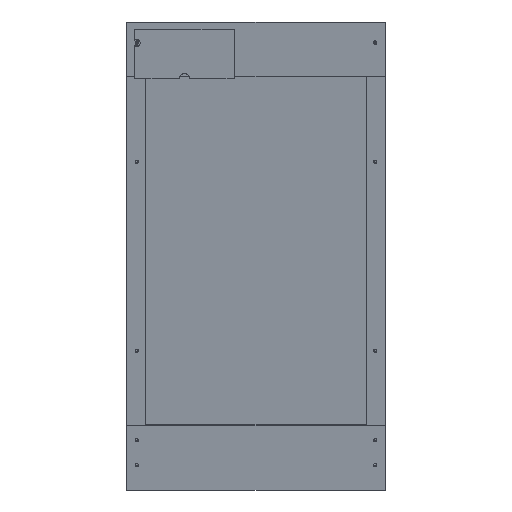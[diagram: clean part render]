
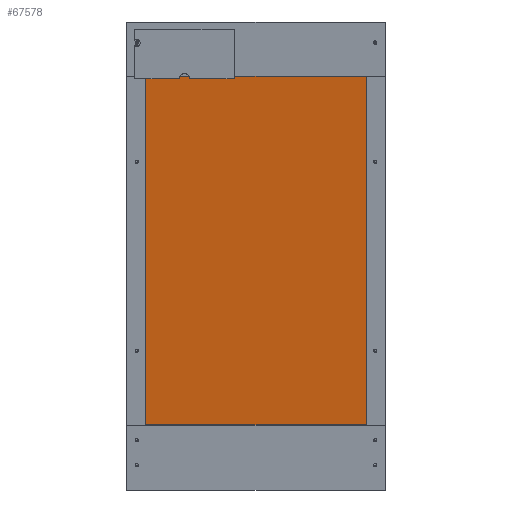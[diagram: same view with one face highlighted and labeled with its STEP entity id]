
A CAD part, top view. The second image highlights one B-rep face of the part: STEP entity #67578.
In plain terms, the highlighted planar face has unit normal (0, -0.174, 0.985).
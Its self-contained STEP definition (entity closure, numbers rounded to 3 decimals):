
#67409 = PLANE('',#67410);
#67410 = AXIS2_PLACEMENT_3D('',#67411,#67412,#67413);
#67411 = CARTESIAN_POINT('',(18.1,64.,86.285));
#67412 = DIRECTION('',(-0.,1.,0.));
#67413 = DIRECTION('',(0.,0.,-1.));
#67437 = PLANE('',#67438);
#67438 = AXIS2_PLACEMENT_3D('',#67439,#67440,#67441);
#67439 = CARTESIAN_POINT('',(241.9,240.675,111.437));
#67440 = DIRECTION('',(1.,0.,0.));
#67441 = DIRECTION('',(-0.,0.,1.));
#67465 = PLANE('',#67466);
#67466 = AXIS2_PLACEMENT_3D('',#67467,#67468,#67469);
#67467 = CARTESIAN_POINT('',(18.1,417.349,136.59));
#67468 = DIRECTION('',(0.,-1.,0.));
#67469 = DIRECTION('',(0.,0.,1.));
#67491 = PLANE('',#67492);
#67492 = AXIS2_PLACEMENT_3D('',#67493,#67494,#67495);
#67493 = CARTESIAN_POINT('',(18.1,240.675,111.437));
#67494 = DIRECTION('',(1.,0.,0.));
#67495 = DIRECTION('',(-0.,0.,1.));
#67508 = VERTEX_POINT('',#67509);
#67509 = CARTESIAN_POINT('',(241.9,417.349,148.59));
#67530 = EDGE_CURVE('',#67531,#67508,#67533,.T.);
#67531 = VERTEX_POINT('',#67532);
#67532 = CARTESIAN_POINT('',(18.1,417.349,148.59));
#67533 = SURFACE_CURVE('',#67534,(#67538,#67545),.PCURVE_S1.);
#67534 = LINE('',#67535,#67536);
#67535 = CARTESIAN_POINT('',(18.1,417.349,148.59));
#67536 = VECTOR('',#67537,1.);
#67537 = DIRECTION('',(1.,0.,0.));
#67538 = PCURVE('',#67465,#67539);
#67539 = DEFINITIONAL_REPRESENTATION('',(#67540),#67544);
#67540 = LINE('',#67541,#67542);
#67541 = CARTESIAN_POINT('',(12.,0.));
#67542 = VECTOR('',#67543,1.);
#67543 = DIRECTION('',(0.,-1.));
#67544 = ( GEOMETRIC_REPRESENTATION_CONTEXT(2) 
PARAMETRIC_REPRESENTATION_CONTEXT() REPRESENTATION_CONTEXT('2D SPACE',''
  ) );
#67545 = PCURVE('',#67546,#67551);
#67546 = PLANE('',#67547);
#67547 = AXIS2_PLACEMENT_3D('',#67548,#67549,#67550);
#67548 = CARTESIAN_POINT('',(18.1,417.349,148.59));
#67549 = DIRECTION('',(0.,0.174,-0.985));
#67550 = DIRECTION('',(0.,-0.985,-0.174));
#67551 = DEFINITIONAL_REPRESENTATION('',(#67552),#67556);
#67552 = LINE('',#67553,#67554);
#67553 = CARTESIAN_POINT('',(0.,0.));
#67554 = VECTOR('',#67555,1.);
#67555 = DIRECTION('',(0.,-1.));
#67556 = ( GEOMETRIC_REPRESENTATION_CONTEXT(2) 
PARAMETRIC_REPRESENTATION_CONTEXT() REPRESENTATION_CONTEXT('2D SPACE',''
  ) );
#67578 = ADVANCED_FACE('',(#67579),#67546,.F.);
#67579 = FACE_BOUND('',#67580,.F.);
#67580 = EDGE_LOOP('',(#67581,#67582,#67605,#67628));
#67581 = ORIENTED_EDGE('',*,*,#67530,.T.);
#67582 = ORIENTED_EDGE('',*,*,#67583,.T.);
#67583 = EDGE_CURVE('',#67508,#67584,#67586,.T.);
#67584 = VERTEX_POINT('',#67585);
#67585 = CARTESIAN_POINT('',(241.9,64.,86.285));
#67586 = SURFACE_CURVE('',#67587,(#67591,#67598),.PCURVE_S1.);
#67587 = LINE('',#67588,#67589);
#67588 = CARTESIAN_POINT('',(241.9,417.349,148.59));
#67589 = VECTOR('',#67590,1.);
#67590 = DIRECTION('',(0.,-0.985,-0.174));
#67591 = PCURVE('',#67546,#67592);
#67592 = DEFINITIONAL_REPRESENTATION('',(#67593),#67597);
#67593 = LINE('',#67594,#67595);
#67594 = CARTESIAN_POINT('',(0.,-223.8));
#67595 = VECTOR('',#67596,1.);
#67596 = DIRECTION('',(1.,0.));
#67597 = ( GEOMETRIC_REPRESENTATION_CONTEXT(2) 
PARAMETRIC_REPRESENTATION_CONTEXT() REPRESENTATION_CONTEXT('2D SPACE',''
  ) );
#67598 = PCURVE('',#67437,#67599);
#67599 = DEFINITIONAL_REPRESENTATION('',(#67600),#67604);
#67600 = LINE('',#67601,#67602);
#67601 = CARTESIAN_POINT('',(37.152,-176.675));
#67602 = VECTOR('',#67603,1.);
#67603 = DIRECTION('',(-0.174,0.985));
#67604 = ( GEOMETRIC_REPRESENTATION_CONTEXT(2) 
PARAMETRIC_REPRESENTATION_CONTEXT() REPRESENTATION_CONTEXT('2D SPACE',''
  ) );
#67605 = ORIENTED_EDGE('',*,*,#67606,.F.);
#67606 = EDGE_CURVE('',#67607,#67584,#67609,.T.);
#67607 = VERTEX_POINT('',#67608);
#67608 = CARTESIAN_POINT('',(18.1,64.,86.285));
#67609 = SURFACE_CURVE('',#67610,(#67614,#67621),.PCURVE_S1.);
#67610 = LINE('',#67611,#67612);
#67611 = CARTESIAN_POINT('',(18.1,64.,86.285));
#67612 = VECTOR('',#67613,1.);
#67613 = DIRECTION('',(1.,0.,0.));
#67614 = PCURVE('',#67546,#67615);
#67615 = DEFINITIONAL_REPRESENTATION('',(#67616),#67620);
#67616 = LINE('',#67617,#67618);
#67617 = CARTESIAN_POINT('',(358.8,0.));
#67618 = VECTOR('',#67619,1.);
#67619 = DIRECTION('',(0.,-1.));
#67620 = ( GEOMETRIC_REPRESENTATION_CONTEXT(2) 
PARAMETRIC_REPRESENTATION_CONTEXT() REPRESENTATION_CONTEXT('2D SPACE',''
  ) );
#67621 = PCURVE('',#67409,#67622);
#67622 = DEFINITIONAL_REPRESENTATION('',(#67623),#67627);
#67623 = LINE('',#67624,#67625);
#67624 = CARTESIAN_POINT('',(0.,0.));
#67625 = VECTOR('',#67626,1.);
#67626 = DIRECTION('',(0.,-1.));
#67627 = ( GEOMETRIC_REPRESENTATION_CONTEXT(2) 
PARAMETRIC_REPRESENTATION_CONTEXT() REPRESENTATION_CONTEXT('2D SPACE',''
  ) );
#67628 = ORIENTED_EDGE('',*,*,#67629,.F.);
#67629 = EDGE_CURVE('',#67531,#67607,#67630,.T.);
#67630 = SURFACE_CURVE('',#67631,(#67635,#67642),.PCURVE_S1.);
#67631 = LINE('',#67632,#67633);
#67632 = CARTESIAN_POINT('',(18.1,417.349,148.59));
#67633 = VECTOR('',#67634,1.);
#67634 = DIRECTION('',(0.,-0.985,-0.174));
#67635 = PCURVE('',#67546,#67636);
#67636 = DEFINITIONAL_REPRESENTATION('',(#67637),#67641);
#67637 = LINE('',#67638,#67639);
#67638 = CARTESIAN_POINT('',(0.,0.));
#67639 = VECTOR('',#67640,1.);
#67640 = DIRECTION('',(1.,0.));
#67641 = ( GEOMETRIC_REPRESENTATION_CONTEXT(2) 
PARAMETRIC_REPRESENTATION_CONTEXT() REPRESENTATION_CONTEXT('2D SPACE',''
  ) );
#67642 = PCURVE('',#67491,#67643);
#67643 = DEFINITIONAL_REPRESENTATION('',(#67644),#67648);
#67644 = LINE('',#67645,#67646);
#67645 = CARTESIAN_POINT('',(37.152,-176.675));
#67646 = VECTOR('',#67647,1.);
#67647 = DIRECTION('',(-0.174,0.985));
#67648 = ( GEOMETRIC_REPRESENTATION_CONTEXT(2) 
PARAMETRIC_REPRESENTATION_CONTEXT() REPRESENTATION_CONTEXT('2D SPACE',''
  ) );
